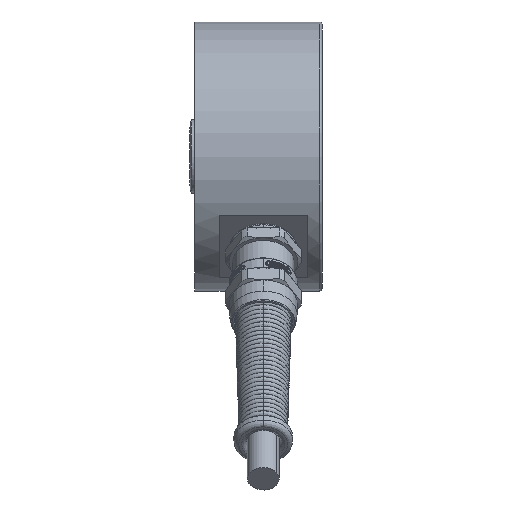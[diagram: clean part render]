
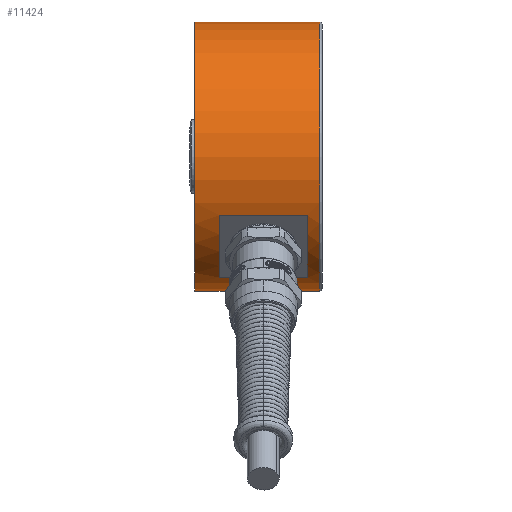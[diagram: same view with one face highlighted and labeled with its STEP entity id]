
A CAD part, left-side view. The second image highlights one B-rep face of the part: STEP entity #11424.
In plain terms, the highlighted cylindrical face has radius 27.5 mm (diameter 55 mm), a partial arc.
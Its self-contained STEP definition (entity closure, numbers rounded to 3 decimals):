
#797 = CARTESIAN_POINT ( 'NONE',  ( 0., 14., 27.5 ) ) ;
#1445 = VECTOR ( 'NONE', #20911, 1000. ) ;
#1469 = CARTESIAN_POINT ( 'NONE',  ( 0., -11.5, 27.5 ) ) ;
#1591 = ORIENTED_EDGE ( 'NONE', *, *, #3179, .F. ) ;
#3179 = EDGE_CURVE ( 'NONE', #15293, #9460, #4371, .T. ) ;
#3597 = CIRCLE ( 'NONE', #14746, 27.5 ) ;
#3856 = CARTESIAN_POINT ( 'NONE',  ( -24.719, -9., -12.05 ) ) ;
#4371 = LINE ( 'NONE', #9361, #12663 ) ;
#4419 = EDGE_CURVE ( 'NONE', #23843, #18644, #7004, .T. ) ;
#4756 = CARTESIAN_POINT ( 'NONE',  ( 0., -50., 0. ) ) ;
#5066 = DIRECTION ( 'NONE',  ( 0., 0., -1. ) ) ;
#5325 = ORIENTED_EDGE ( 'NONE', *, *, #4419, .F. ) ;
#5537 = FACE_BOUND ( 'NONE', #21516, .T. ) ;
#6606 = ORIENTED_EDGE ( 'NONE', *, *, #18533, .T. ) ;
#6846 = CYLINDRICAL_SURFACE ( 'NONE', #24310, 27.5 ) ;
#7004 = LINE ( 'NONE', #14511, #1445 ) ;
#7278 = DIRECTION ( 'NONE',  ( 0., -1., 0. ) ) ;
#7310 = EDGE_LOOP ( 'NONE', ( #5325, #7979, #15049, #23607 ) ) ;
#7321 = DIRECTION ( 'NONE',  ( 0., 1., 0. ) ) ;
#7389 = VERTEX_POINT ( 'NONE', #13689 ) ;
#7979 = ORIENTED_EDGE ( 'NONE', *, *, #9326, .T. ) ;
#8590 = VECTOR ( 'NONE', #13194, 1000. ) ;
#9232 = AXIS2_PLACEMENT_3D ( 'NONE', #20323, #26324, #20136 ) ;
#9326 = EDGE_CURVE ( 'NONE', #23843, #7389, #11924, .T. ) ;
#9361 = CARTESIAN_POINT ( 'NONE',  ( -24.719, -9., -12.05 ) ) ;
#9460 = VERTEX_POINT ( 'NONE', #22392 ) ;
#9818 = EDGE_CURVE ( 'NONE', #19512, #13195, #12899, .T. ) ;
#10067 = CIRCLE ( 'NONE', #9232, 27.5 ) ;
#10533 = CARTESIAN_POINT ( 'NONE',  ( 0., -9., 0. ) ) ;
#10708 = DIRECTION ( 'NONE',  ( 0., 1., 0. ) ) ;
#11167 = CARTESIAN_POINT ( 'NONE',  ( 0., -11.5, 0. ) ) ;
#11409 = DIRECTION ( 'NONE',  ( 0., -1., 0. ) ) ;
#11424 = ADVANCED_FACE ( 'NONE', ( #13839, #5537 ), #6846, .T. ) ;
#11542 = DIRECTION ( 'NONE',  ( 0., 0., -1. ) ) ;
#11924 = CIRCLE ( 'NONE', #15360, 27.5 ) ;
#12577 = EDGE_CURVE ( 'NONE', #25182, #18644, #3597, .T. ) ;
#12663 = VECTOR ( 'NONE', #7321, 1000. ) ;
#12686 = CARTESIAN_POINT ( 'NONE',  ( 0., -50., -27.5 ) ) ;
#12899 = LINE ( 'NONE', #21902, #8590 ) ;
#12939 = CARTESIAN_POINT ( 'NONE',  ( -12.05, -9., -24.719 ) ) ;
#13194 = DIRECTION ( 'NONE',  ( 0., 1., 0. ) ) ;
#13195 = VERTEX_POINT ( 'NONE', #23305 ) ;
#13559 = DIRECTION ( 'NONE',  ( 0., 0., -1. ) ) ;
#13689 = CARTESIAN_POINT ( 'NONE',  ( 0., 14., -27.5 ) ) ;
#13839 = FACE_OUTER_BOUND ( 'NONE', #7310, .T. ) ;
#14511 = CARTESIAN_POINT ( 'NONE',  ( 0., -50., 27.5 ) ) ;
#14746 = AXIS2_PLACEMENT_3D ( 'NONE', #11167, #17665, #11542 ) ;
#15049 = ORIENTED_EDGE ( 'NONE', *, *, #17695, .T. ) ;
#15078 = DIRECTION ( 'NONE',  ( 0., 0., -1. ) ) ;
#15293 = VERTEX_POINT ( 'NONE', #3856 ) ;
#15360 = AXIS2_PLACEMENT_3D ( 'NONE', #17762, #7278, #5066 ) ;
#17576 = ORIENTED_EDGE ( 'NONE', *, *, #17703, .F. ) ;
#17665 = DIRECTION ( 'NONE',  ( 0., 1., 0. ) ) ;
#17695 = EDGE_CURVE ( 'NONE', #7389, #25182, #24656, .T. ) ;
#17703 = EDGE_CURVE ( 'NONE', #19512, #15293, #24337, .T. ) ;
#17762 = CARTESIAN_POINT ( 'NONE',  ( 0., 14., 0. ) ) ;
#18533 = EDGE_CURVE ( 'NONE', #13195, #9460, #10067, .T. ) ;
#18644 = VERTEX_POINT ( 'NONE', #1469 ) ;
#18938 = ORIENTED_EDGE ( 'NONE', *, *, #9818, .T. ) ;
#19355 = VECTOR ( 'NONE', #21039, 1000. ) ;
#19512 = VERTEX_POINT ( 'NONE', #12939 ) ;
#20136 = DIRECTION ( 'NONE',  ( 0., 0., -1. ) ) ;
#20323 = CARTESIAN_POINT ( 'NONE',  ( 0., 9., 0. ) ) ;
#20911 = DIRECTION ( 'NONE',  ( 0., -1., 0. ) ) ;
#21039 = DIRECTION ( 'NONE',  ( 0., -1., 0. ) ) ;
#21516 = EDGE_LOOP ( 'NONE', ( #17576, #18938, #6606, #1591 ) ) ;
#21902 = CARTESIAN_POINT ( 'NONE',  ( -12.05, -9., -24.719 ) ) ;
#22392 = CARTESIAN_POINT ( 'NONE',  ( -24.719, 9., -12.05 ) ) ;
#23305 = CARTESIAN_POINT ( 'NONE',  ( -12.05, 9., -24.719 ) ) ;
#23546 = CARTESIAN_POINT ( 'NONE',  ( 0., -11.5, -27.5 ) ) ;
#23607 = ORIENTED_EDGE ( 'NONE', *, *, #12577, .T. ) ;
#23843 = VERTEX_POINT ( 'NONE', #797 ) ;
#24310 = AXIS2_PLACEMENT_3D ( 'NONE', #4756, #11409, #13559 ) ;
#24337 = CIRCLE ( 'NONE', #26595, 27.5 ) ;
#24656 = LINE ( 'NONE', #12686, #19355 ) ;
#25182 = VERTEX_POINT ( 'NONE', #23546 ) ;
#26324 = DIRECTION ( 'NONE',  ( 0., 1., 0. ) ) ;
#26595 = AXIS2_PLACEMENT_3D ( 'NONE', #10533, #10708, #15078 ) ;
